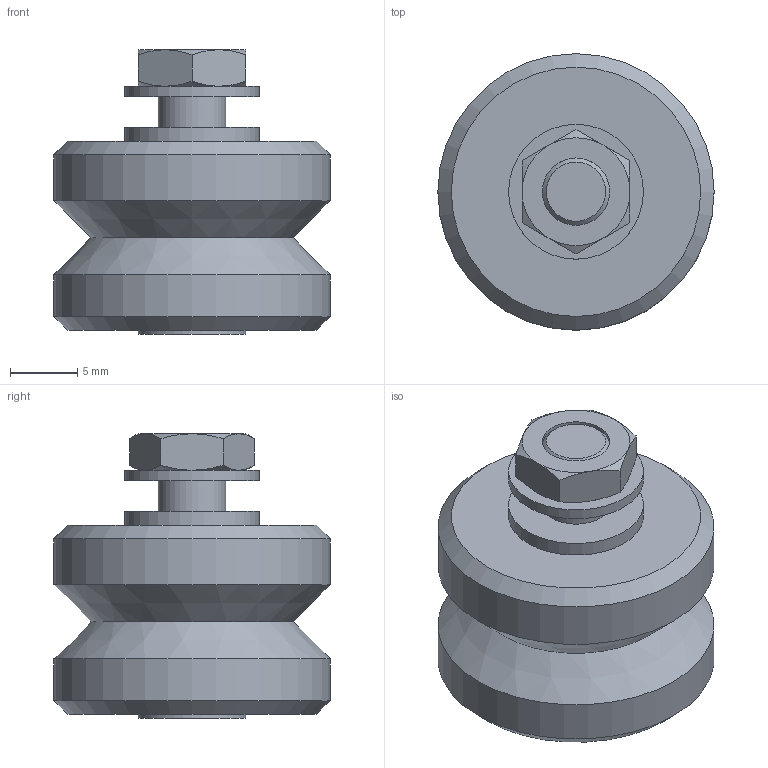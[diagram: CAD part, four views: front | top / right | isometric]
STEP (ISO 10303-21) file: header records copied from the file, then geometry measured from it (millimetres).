
FILE_DESCRIPTION((''),'2;1');
FILE_NAME('D:\製品 (図面)\カタログ用3D\リニアガイド関連\STEP形式\VR\VR5(E).stp','2010-06-02T17:11:05',('Tsuchiya'),(''),'Autodesk Inventor 10','Autodesk Inventor 10','');
FILE_SCHEMA(('AUTOMOTIVE_DESIGN { 1 0 10303 214 1 1 1 1 }'));
Length unit declared in the file: millimetre
Products named in the file (1): VR5(E)
Bounding box: 20.5 x 20.5 x 21.1 mm (x, y, z)
Volume: 4460.6 mm3; surface area: 1896.2 mm2
Topology: 1 solids, 1 shells, 40 faces, 77 edges, 46 vertices
Faces by surface type: cone 17, plane 15, cylinder 8
Full cylindrical faces by diameter (mm): 5 x2, 6 x1, 8 x1, 10 x2, 20.5 x2
Entity records: 921 total; most frequent: CARTESIAN_POINT 195, DIRECTION 152, ORIENTED_EDGE 124, AXIS2_PLACEMENT_3D 73, EDGE_CURVE 62, EDGE_LOOP 60, VERTEX_POINT 44, FACE_OUTER_BOUND 40
